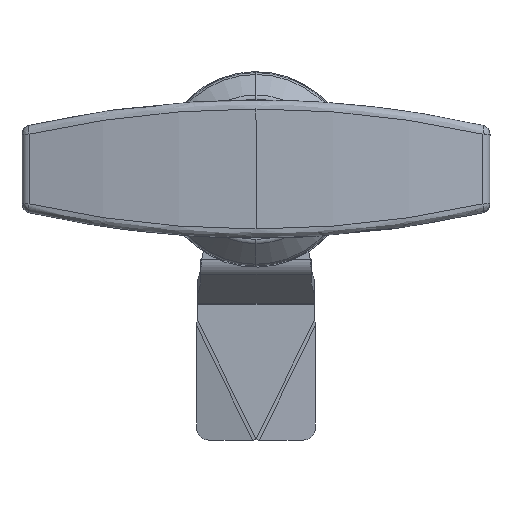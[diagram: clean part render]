
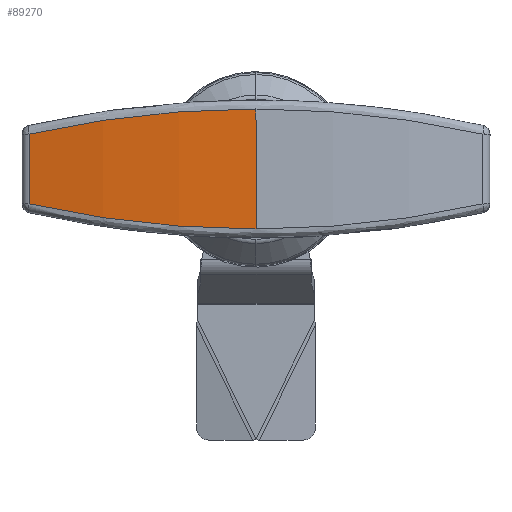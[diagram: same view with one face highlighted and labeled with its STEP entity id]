
A CAD part, top view. The second image highlights one B-rep face of the part: STEP entity #89270.
In plain terms, the highlighted cylindrical face has radius 171.25 mm (diameter 342.5 mm), a partial arc.
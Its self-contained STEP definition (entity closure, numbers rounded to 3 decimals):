
#3895 = CARTESIAN_POINT ( 'NONE',  ( 0., 70., 37.2 ) ) ;
#4346 = CARTESIAN_POINT ( 'NONE',  ( -23.424, 71.521, 35.666 ) ) ;
#5154 = VECTOR ( 'NONE', #38914, 1000. ) ;
#5253 = VECTOR ( 'NONE', #81240, 1000. ) ;
#6861 = ORIENTED_EDGE ( 'NONE', *, *, #62274, .T. ) ;
#9026 = CARTESIAN_POINT ( 'NONE',  ( -1.637, 90., 37.2 ) ) ;
#9940 = CYLINDRICAL_SURFACE ( 'NONE', #85851, 171.25 ) ;
#10409 = CARTESIAN_POINT ( 'NONE',  ( 0., -5999930.4, 37.2 ) ) ;
#16051 = CARTESIAN_POINT ( 'NONE',  ( -35.867, 86.247, 33.414 ) ) ;
#17925 = CARTESIAN_POINT ( 'NONE',  ( -6.498, 70.069, 37.13 ) ) ;
#18373 = CARTESIAN_POINT ( 'NONE',  ( 0., 70., 37.2 ) ) ;
#25394 = CARTESIAN_POINT ( 'NONE',  ( -14.412, 70.516, 36.679 ) ) ;
#27148 = VERTEX_POINT ( 'NONE', #71036 ) ;
#30462 = VERTEX_POINT ( 'NONE', #37915 ) ;
#32039 = VERTEX_POINT ( 'NONE', #59366 ) ;
#32736 = ORIENTED_EDGE ( 'NONE', *, *, #89757, .T. ) ;
#37915 = CARTESIAN_POINT ( 'NONE',  ( 0., 90., 37.2 ) ) ;
#38022 = EDGE_LOOP ( 'NONE', ( #52298, #32736, #69498, #6861 ) ) ;
#38452 = CARTESIAN_POINT ( 'NONE',  ( 0., -5999930.4, -134.05 ) ) ;
#38914 = DIRECTION ( 'NONE',  ( 0., 1., 0. ) ) ;
#44548 = DIRECTION ( 'NONE',  ( 0., 0., 1. ) ) ;
#44740 = CARTESIAN_POINT ( 'NONE',  ( -37.831, -5999930.4, 32.969 ) ) ;
#45001 = EDGE_CURVE ( 'NONE', #27148, #30462, #56964, .T. ) ;
#45954 = CARTESIAN_POINT ( 'NONE',  ( -31.179, 87.214, 34.39 ) ) ;
#52298 = ORIENTED_EDGE ( 'NONE', *, *, #61133, .F. ) ;
#52678 = LINE ( 'NONE', #44740, #5253 ) ;
#56964 =( BOUNDED_CURVE ( )  B_SPLINE_CURVE ( 3, ( #73594, #16051, #45954, #59069, #66096, #74536, #9026, #67040 ),
 .UNSPECIFIED., .F., .F. ) 
 B_SPLINE_CURVE_WITH_KNOTS ( ( 4, 1, 1, 1, 1, 4 ),
 ( 0., 0.08, 0.191, 0.31, 0.436, 0.5 ),
 .UNSPECIFIED. ) 
 CURVE ( )  GEOMETRIC_REPRESENTATION_ITEM ( )  RATIONAL_B_SPLINE_CURVE ( ( 1.172, 1.172, 1.172, 1.172, 1.172, 1.172, 1.172, 1.172 ) ) 
 REPRESENTATION_ITEM ( '' )  );
#59069 = CARTESIAN_POINT ( 'NONE',  ( -23.424, 88.479, 35.666 ) ) ;
#59366 = CARTESIAN_POINT ( 'NONE',  ( -37.831, 74.194, 32.969 ) ) ;
#61133 = EDGE_CURVE ( 'NONE', #63017, #32039, #72733, .T. ) ;
#61403 = CARTESIAN_POINT ( 'NONE',  ( -37.831, 74.194, 32.969 ) ) ;
#62274 = EDGE_CURVE ( 'NONE', #27148, #32039, #52678, .T. ) ;
#63017 = VERTEX_POINT ( 'NONE', #3895 ) ;
#65617 = FACE_OUTER_BOUND ( 'NONE', #38022, .T. ) ;
#66096 = CARTESIAN_POINT ( 'NONE',  ( -14.412, 89.484, 36.679 ) ) ;
#67040 = CARTESIAN_POINT ( 'NONE',  ( 0., 90., 37.2 ) ) ;
#69498 = ORIENTED_EDGE ( 'NONE', *, *, #45001, .F. ) ;
#71036 = CARTESIAN_POINT ( 'NONE',  ( -37.831, 85.806, 32.969 ) ) ;
#72733 =( BOUNDED_CURVE ( )  B_SPLINE_CURVE ( 3, ( #18373, #76404, #17925, #25394, #4346, #82047, #90439, #61403 ),
 .UNSPECIFIED., .F., .F. ) 
 B_SPLINE_CURVE_WITH_KNOTS ( ( 4, 1, 1, 1, 1, 4 ),
 ( 0.5, 0.564, 0.69, 0.809, 0.92, 1. ),
 .UNSPECIFIED. ) 
 CURVE ( )  GEOMETRIC_REPRESENTATION_ITEM ( )  RATIONAL_B_SPLINE_CURVE ( ( 1.172, 1.172, 1.172, 1.172, 1.172, 1.172, 1.172, 1.172 ) ) 
 REPRESENTATION_ITEM ( '' )  );
#73571 = DIRECTION ( 'NONE',  ( 0., 1., 0. ) ) ;
#73594 = CARTESIAN_POINT ( 'NONE',  ( -37.831, 85.806, 32.969 ) ) ;
#74536 = CARTESIAN_POINT ( 'NONE',  ( -6.498, 89.931, 37.13 ) ) ;
#76404 = CARTESIAN_POINT ( 'NONE',  ( -1.637, 70., 37.2 ) ) ;
#81240 = DIRECTION ( 'NONE',  ( 0., -1., 0. ) ) ;
#82047 = CARTESIAN_POINT ( 'NONE',  ( -31.179, 72.786, 34.39 ) ) ;
#82897 = LINE ( 'NONE', #10409, #5154 ) ;
#85851 = AXIS2_PLACEMENT_3D ( 'NONE', #38452, #73571, #44548 ) ;
#89270 = ADVANCED_FACE ( 'NONE', ( #65617 ), #9940, .T. ) ;
#89757 = EDGE_CURVE ( 'NONE', #63017, #30462, #82897, .T. ) ;
#90439 = CARTESIAN_POINT ( 'NONE',  ( -35.867, 73.753, 33.414 ) ) ;
